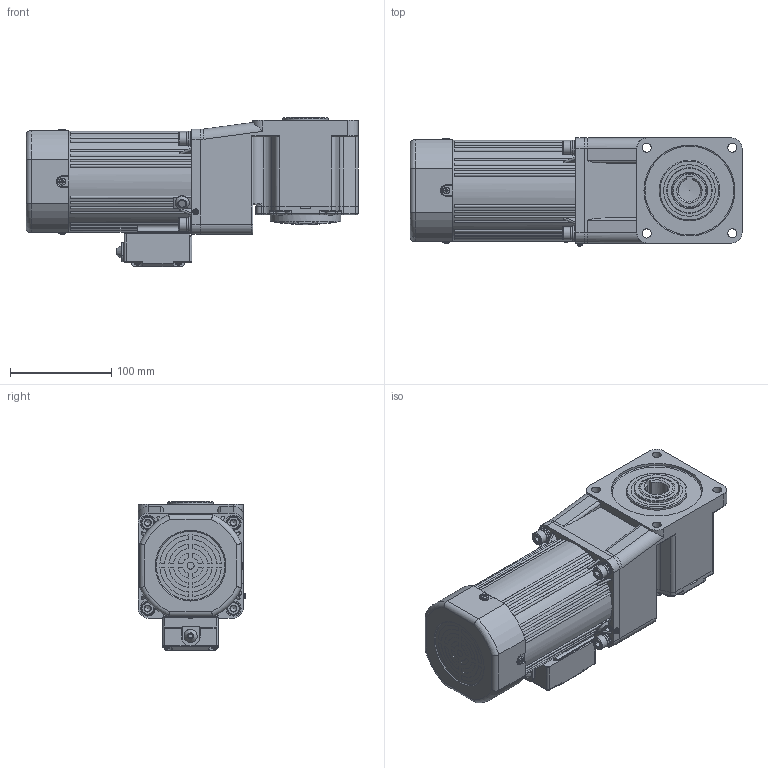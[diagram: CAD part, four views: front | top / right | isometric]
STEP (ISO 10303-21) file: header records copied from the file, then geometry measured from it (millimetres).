
FILE_DESCRIPTION(/* description */ (''),/* implementation_level */ '2;1');
FILE_NAME(/* name */ '100+直角中空-调速风叶-160-250W 新版长款接线盒.stp',/* time_stamp */ '2025-04-07T19:59:25+08:00',/* author */ (''),/* organization */ (''),/* preprocessor_version */ 'ST-DEVELOPER v18.102',/* originating_system */ 'SIEMENS PLM Software NX 2027',/* authorisation */ '');
FILE_SCHEMA (('AP203_CONFIGURATION_CONTROLLED_3D_DESIGN_OF_MECHANICAL_PARTS_AND_ASSEMBLIES_MIM_LF { 1 0 10303 403 2 1 2}'));
Length unit declared in the file: millimetre
Products named in the file (1): 100+直角中空-调速风叶-160
-250W 新版_stp_objects
Bounding box: 328.5 x 106.83 x 147.5 mm (x, y, z)
Volume: 2889271.5 mm3; surface area: 262469.5 mm2
Topology: 16 solids, 16 shells, 1699 faces, 4341 edges, 2744 vertices
Faces by surface type: plane 815, cylinder 548, torus 113, bspline 110, cone 77, sphere 36
Full cylindrical faces by diameter (mm): 2.2 x2, 2.6 x1, 2.9 x4, 3.2 x1, 3.3 x2, 3.5 x4, 4.2 x1, 4.55 x1, 4.8 x1, 5.1 x1, 5.15 x1, 5.6 x4, 6 x11, 6.8 x8, 7 x2, 7.5 x1, 7.76 x4, 8 x1, 8.4 x4, 9 x8, 9.5 x4, 10 x2, 13 x4, 14 x4, 15 x4, 15.5 x1, 19 x1, 30 x1, 45 x1, 52 x1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
Entity records: 51599 total; most frequent: CARTESIAN_POINT 11773, DIRECTION 8151, ORIENTED_EDGE 8102, EDGE_CURVE 4051, AXIS2_PLACEMENT_3D 3100, VERTEX_POINT 2666, EDGE_LOOP 2025, LINE 1951
